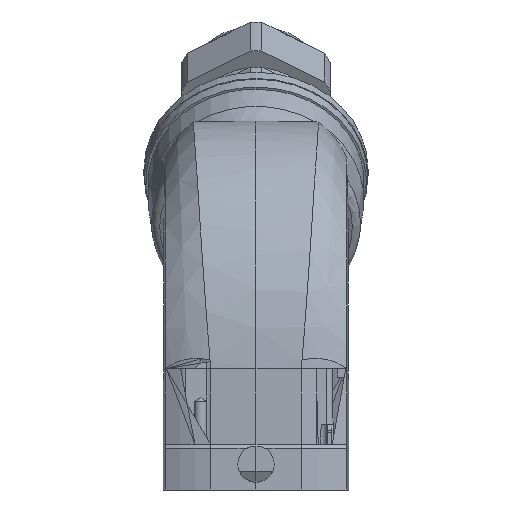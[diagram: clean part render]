
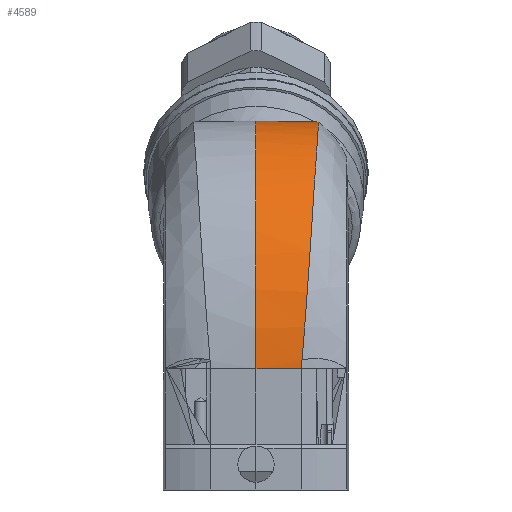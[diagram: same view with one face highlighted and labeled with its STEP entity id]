
A CAD part, left-side view. The second image highlights one B-rep face of the part: STEP entity #4589.
In plain terms, the highlighted free-form (B-spline) face has degree [1, 3] with [2, 13] control points.
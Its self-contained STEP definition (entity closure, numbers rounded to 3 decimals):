
#3690=B_SPLINE_SURFACE_WITH_KNOTS('',1,3,((#20733,#20734,#20735,#20736,
#20737,#20738,#20739,#20740,#20741,#20742,#20743,#20744,#20745),(#20746,
#20747,#20748,#20749,#20750,#20751,#20752,#20753,#20754,#20755,#20756,#20757,
#20758)),.UNSPECIFIED.,.F.,.F.,.F.,(2,2),(4,3,2,2,2,4),(0.,1.),(0.,0.159,
0.369,0.579,0.79,1.),.UNSPECIFIED.);
#3953=FACE_OUTER_BOUND('',#5689,.T.);
#4589=ADVANCED_FACE('',(#3953),#3690,.T.);
#5689=EDGE_LOOP('',(#6641,#6642,#6643,#6644,#6645,#6646,#6647,#6648));
#6641=ORIENTED_EDGE('',*,*,#10549,.F.);
#6642=ORIENTED_EDGE('',*,*,#10687,.T.);
#6643=ORIENTED_EDGE('',*,*,#10688,.T.);
#6644=ORIENTED_EDGE('',*,*,#10689,.F.);
#6645=ORIENTED_EDGE('',*,*,#10690,.F.);
#6646=ORIENTED_EDGE('',*,*,#10691,.F.);
#6647=ORIENTED_EDGE('',*,*,#10692,.F.);
#6648=ORIENTED_EDGE('',*,*,#10693,.F.);
#9535=VERTEX_POINT('',#19739);
#9536=VERTEX_POINT('',#19748);
#9656=VERTEX_POINT('',#20681);
#9657=VERTEX_POINT('',#20683);
#9658=VERTEX_POINT('',#20688);
#9659=VERTEX_POINT('',#20693);
#9660=VERTEX_POINT('',#20717);
#9661=VERTEX_POINT('',#20727);
#10549=EDGE_CURVE('',#9535,#9536,#11949,.T.);
#10687=EDGE_CURVE('',#9535,#9656,#12019,.T.);
#10688=EDGE_CURVE('',#9656,#9657,#13115,.T.);
#10689=EDGE_CURVE('',#9658,#9657,#12020,.T.);
#10690=EDGE_CURVE('',#9659,#9658,#12021,.T.);
#10691=EDGE_CURVE('',#9660,#9659,#12022,.T.);
#10692=EDGE_CURVE('',#9661,#9660,#12023,.T.);
#10693=EDGE_CURVE('',#9536,#9661,#12024,.T.);
#11949=B_SPLINE_CURVE_WITH_KNOTS('',3,(#19740,#19741,#19742,#19743,#19744,
#19745,#19746,#19747),.UNSPECIFIED.,.F.,.F.,(4,2,2,4),(0.,0.25,0.5,1.),
 .UNSPECIFIED.);
#12019=B_SPLINE_CURVE_WITH_KNOTS('',3,(#20669,#20670,#20671,#20672,#20673,
#20674,#20675,#20676,#20677,#20678,#20679,#20680),.UNSPECIFIED.,.F.,.F.,
(4,2,2,2,2,4),(0.,0.091,0.319,0.546,
0.773,1.),.UNSPECIFIED.);
#12020=B_SPLINE_CURVE_WITH_KNOTS('',3,(#20684,#20685,#20686,#20687),
 .UNSPECIFIED.,.F.,.F.,(4,4),(0.,1.),.UNSPECIFIED.);
#12021=B_SPLINE_CURVE_WITH_KNOTS('',3,(#20689,#20690,#20691,#20692),
 .UNSPECIFIED.,.F.,.F.,(4,4),(0.,1.),.UNSPECIFIED.);
#12022=B_SPLINE_CURVE_WITH_KNOTS('',3,(#20694,#20695,#20696,#20697,#20698,
#20699,#20700,#20701,#20702,#20703,#20704,#20705,#20706,#20707,#20708,#20709,
#20710,#20711,#20712,#20713,#20714,#20715,#20716),.UNSPECIFIED.,.F.,.F.,
(4,2,2,2,2,1,2,2,2,2,2,4),(0.,0.125,0.25,0.375,0.406,0.422,0.426,
0.43,0.438,0.5,0.75,1.),.UNSPECIFIED.);
#12023=B_SPLINE_CURVE_WITH_KNOTS('',3,(#20718,#20719,#20720,#20721,#20722,
#20723,#20724,#20725,#20726),.UNSPECIFIED.,.F.,.F.,(4,1,1,1,1,1,4),(0.,
0.305,0.457,0.61,0.762,
0.915,1.),.UNSPECIFIED.);
#12024=B_SPLINE_CURVE_WITH_KNOTS('',3,(#20728,#20729,#20730,#20731,#20732),
 .UNSPECIFIED.,.F.,.F.,(4,1,4),(0.,0.213,1.),.UNSPECIFIED.);
#13115=LINE('',#20682,#13974);
#13974=VECTOR('',#16789,1.);
#16789=DIRECTION('',(0.017,-1.,0.));
#19739=CARTESIAN_POINT('',(7.354,0.,79.698));
#19740=CARTESIAN_POINT('',(7.354,0.,79.698));
#19741=CARTESIAN_POINT('',(7.326,-1.391,79.679));
#19742=CARTESIAN_POINT('',(7.453,-2.756,79.629));
#19743=CARTESIAN_POINT('',(7.985,-5.436,79.466));
#19744=CARTESIAN_POINT('',(8.394,-6.763,79.352));
#19745=CARTESIAN_POINT('',(9.95,-10.587,78.892));
#19746=CARTESIAN_POINT('',(11.406,-12.925,78.435));
#19747=CARTESIAN_POINT('',(13.071,-15.038,77.768));
#19748=CARTESIAN_POINT('',(13.061,-15.038,77.761));
#20669=CARTESIAN_POINT('',(7.354,0.,79.698));
#20670=CARTESIAN_POINT('',(4.923,0.,80.197));
#20671=CARTESIAN_POINT('',(2.462,0.,80.45));
#20672=CARTESIAN_POINT('',(-6.12,0.,80.45));
#20673=CARTESIAN_POINT('',(-12.237,0.,78.884));
#20674=CARTESIAN_POINT('',(-23.544,0.,72.858));
#20675=CARTESIAN_POINT('',(-28.73,0.,68.4));
#20676=CARTESIAN_POINT('',(-37.384,0.,57.265));
#20677=CARTESIAN_POINT('',(-40.85,0.,50.593));
#20678=CARTESIAN_POINT('',(-45.533,0.,36.044));
#20679=CARTESIAN_POINT('',(-46.75,0.,28.174));
#20680=CARTESIAN_POINT('',(-46.75,0.,20.3));
#20681=CARTESIAN_POINT('',(-46.75,0.,20.3));
#20682=CARTESIAN_POINT('',(-46.75,0.,20.3));
#20683=CARTESIAN_POINT('',(-46.558,-11.,20.3));
#20684=CARTESIAN_POINT('',(-46.537,-11.12,22.017));
#20685=CARTESIAN_POINT('',(-46.544,-11.08,21.444));
#20686=CARTESIAN_POINT('',(-46.551,-11.04,20.872));
#20687=CARTESIAN_POINT('',(-46.558,-11.,20.3));
#20688=CARTESIAN_POINT('',(-46.537,-11.12,22.017));
#20689=CARTESIAN_POINT('',(-46.528,-11.169,22.359));
#20690=CARTESIAN_POINT('',(-46.531,-11.153,22.245));
#20691=CARTESIAN_POINT('',(-46.534,-11.136,22.131));
#20692=CARTESIAN_POINT('',(-46.537,-11.12,22.017));
#20693=CARTESIAN_POINT('',(-46.528,-11.157,22.36));
#20694=CARTESIAN_POINT('',(-30.217,-14.227,65.828));
#20695=CARTESIAN_POINT('',(-30.558,-14.203,65.454));
#20696=CARTESIAN_POINT('',(-31.185,-14.16,64.76));
#20697=CARTESIAN_POINT('',(-32.917,-14.027,62.639));
#20698=CARTESIAN_POINT('',(-34.022,-13.937,61.207));
#20699=CARTESIAN_POINT('',(-36.49,-13.701,57.521));
#20700=CARTESIAN_POINT('',(-37.849,-13.553,55.269));
#20701=CARTESIAN_POINT('',(-39.551,-13.327,51.845));
#20702=CARTESIAN_POINT('',(-39.892,-13.28,51.129));
#20703=CARTESIAN_POINT('',(-40.399,-13.206,50.009));
#20704=CARTESIAN_POINT('',(-40.609,-13.175,49.533));
#20705=CARTESIAN_POINT('',(-40.818,-13.143,49.044));
#20706=CARTESIAN_POINT('',(-40.902,-13.13,48.847));
#20707=CARTESIAN_POINT('',(-40.945,-13.123,48.743));
#20708=CARTESIAN_POINT('',(-41.025,-13.111,48.553));
#20709=CARTESIAN_POINT('',(-41.078,-13.102,48.427));
#20710=CARTESIAN_POINT('',(-41.547,-13.027,47.289));
#20711=CARTESIAN_POINT('',(-41.935,-12.96,46.276));
#20712=CARTESIAN_POINT('',(-43.744,-12.618,41.216));
#20713=CARTESIAN_POINT('',(-44.745,-12.331,37.242));
#20714=CARTESIAN_POINT('',(-46.083,-11.752,29.599));
#20715=CARTESIAN_POINT('',(-46.428,-11.462,25.909));
#20716=CARTESIAN_POINT('',(-46.528,-11.169,22.359));
#20717=CARTESIAN_POINT('',(-30.216,-14.205,65.829));
#20718=CARTESIAN_POINT('',(0.,-15.188,80.185));
#20719=CARTESIAN_POINT('',(-3.547,-15.191,80.172));
#20720=CARTESIAN_POINT('',(-8.735,-15.144,79.385));
#20721=CARTESIAN_POINT('',(-15.347,-14.985,76.935));
#20722=CARTESIAN_POINT('',(-19.963,-14.822,74.493));
#20723=CARTESIAN_POINT('',(-24.312,-14.619,71.458));
#20724=CARTESIAN_POINT('',(-27.665,-14.415,68.506));
#20725=CARTESIAN_POINT('',(-29.558,-14.278,66.548));
#20726=CARTESIAN_POINT('',(-30.217,-14.227,65.828));
#20727=CARTESIAN_POINT('',(0.,-15.188,80.185));
#20728=CARTESIAN_POINT('',(13.058,-15.038,77.752));
#20729=CARTESIAN_POINT('',(12.17,-15.06,78.085));
#20730=CARTESIAN_POINT('',(7.941,-15.151,79.505));
#20731=CARTESIAN_POINT('',(3.547,-15.191,80.172));
#20732=CARTESIAN_POINT('',(0.,-15.188,80.185));
#20733=CARTESIAN_POINT('',(13.565,-15.286,77.574));
#20734=CARTESIAN_POINT('',(9.175,-15.286,79.297));
#20735=CARTESIAN_POINT('',(4.588,-15.286,80.183));
#20736=CARTESIAN_POINT('',(0.,-15.286,80.183));
#20737=CARTESIAN_POINT('',(-6.075,-15.286,80.183));
#20738=CARTESIAN_POINT('',(-12.147,-15.286,78.63));
#20739=CARTESIAN_POINT('',(-23.383,-15.286,72.642));
#20740=CARTESIAN_POINT('',(-28.54,-15.286,68.209));
#20741=CARTESIAN_POINT('',(-37.153,-15.286,57.128));
#20742=CARTESIAN_POINT('',(-40.604,-15.286,50.483));
#20743=CARTESIAN_POINT('',(-45.27,-15.286,35.99));
#20744=CARTESIAN_POINT('',(-46.483,-15.286,28.146));
#20745=CARTESIAN_POINT('',(-46.483,-15.286,20.3));
#20746=CARTESIAN_POINT('',(13.663,0.,77.822));
#20747=CARTESIAN_POINT('',(9.242,0.,79.557));
#20748=CARTESIAN_POINT('',(4.622,0.,80.45));
#20749=CARTESIAN_POINT('',(0.,0.,80.45));
#20750=CARTESIAN_POINT('',(-6.12,0.,80.45));
#20751=CARTESIAN_POINT('',(-12.237,0.,78.884));
#20752=CARTESIAN_POINT('',(-23.544,0.,72.858));
#20753=CARTESIAN_POINT('',(-28.73,0.,68.4));
#20754=CARTESIAN_POINT('',(-37.384,0.,57.265));
#20755=CARTESIAN_POINT('',(-40.85,0.,50.593));
#20756=CARTESIAN_POINT('',(-45.533,0.,36.044));
#20757=CARTESIAN_POINT('',(-46.75,0.,28.174));
#20758=CARTESIAN_POINT('',(-46.75,0.,20.3));
